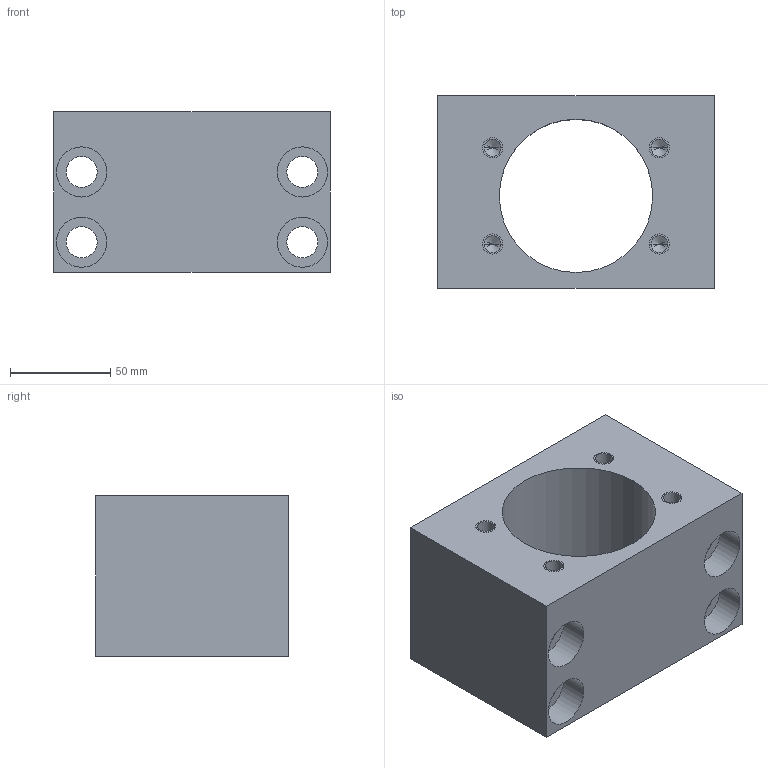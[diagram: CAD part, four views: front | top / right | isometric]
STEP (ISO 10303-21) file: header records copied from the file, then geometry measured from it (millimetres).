
FILE_DESCRIPTION((''),'2;1');
FILE_NAME('NH40E','2020-04-10T',('Administrator'),(''),'PRO/ENGINEER BY PARAMETRIC TECHNOLOGY CORPORATION, 2010280','PRO/ENGINEER BY PARAMETRIC TECHNOLOGY CORPORATION, 2010280','');
FILE_SCHEMA(('CONFIG_CONTROL_DESIGN'));
Length unit declared in the file: millimetre
Products named in the file (1): NH40E
Bounding box: 138 x 96 x 80 mm (x, y, z)
Volume: 597731.9 mm3; surface area: 98241.6 mm2
Topology: 1 solids, 5 shells, 56 faces, 138 edges, 88 vertices
Faces by surface type: cylinder 34, plane 14, cone 8
Entity records: 1697 total; most frequent: DIRECTION 320, CARTESIAN_POINT 275, ORIENTED_EDGE 244, AXIS2_PLACEMENT_3D 133, EDGE_CURVE 130, VERTEX_POINT 88, EDGE_LOOP 78, CIRCLE 76
